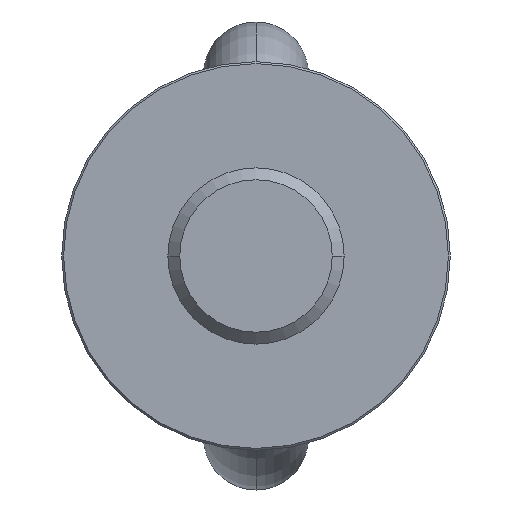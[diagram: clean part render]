
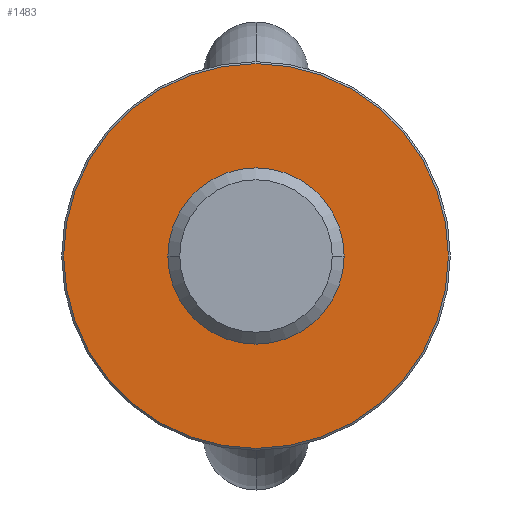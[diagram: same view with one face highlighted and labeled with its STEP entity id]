
A CAD part, front view. The second image highlights one B-rep face of the part: STEP entity #1483.
In plain terms, the highlighted planar face has unit normal (0, -1, 0).
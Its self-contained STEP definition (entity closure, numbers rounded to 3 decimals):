
#5=CARTESIAN_POINT('',(0.,0.,0.));
#6=DIRECTION('',(0.,1.,0.));
#7=DIRECTION('',(1.,0.,0.));
#8=AXIS2_PLACEMENT_3D('',#5,#6,#7);
#14=CARTESIAN_POINT('',(0.,0.,0.));
#15=DIRECTION('',(0.,-1.,0.));
#16=DIRECTION('',(1.,0.,0.));
#17=AXIS2_PLACEMENT_3D('',#14,#15,#16);
#52=CARTESIAN_POINT('',(0.,0.,0.));
#53=DIRECTION('',(0.,-1.,0.));
#54=DIRECTION('',(1.,0.,0.));
#55=AXIS2_PLACEMENT_3D('',#52,#53,#54);
#1129=CARTESIAN_POINT('',(0.,0.,0.));
#1130=DIRECTION('',(0.,1.,0.));
#1131=DIRECTION('',(1.,0.,0.));
#1132=AXIS2_PLACEMENT_3D('',#1129,#1130,#1131);
#1182=CARTESIAN_POINT('',(48.5,0.,0.));
#1183=CARTESIAN_POINT('',(-48.5,0.,0.));
#1184=VERTEX_POINT('',#1182);
#1185=VERTEX_POINT('',#1183);
#1238=CARTESIAN_POINT('',(22.225,0.,0.));
#1240=VERTEX_POINT('',#1238);
#1244=CARTESIAN_POINT('',(-22.225,0.,0.));
#1246=VERTEX_POINT('',#1244);
#1466=CARTESIAN_POINT('',(0.,0.,0.));
#1467=DIRECTION('',(0.,-1.,0.));
#1468=DIRECTION('',(-1.,0.,0.));
#1469=AXIS2_PLACEMENT_3D('',#1466,#1467,#1468);
#1470=PLANE('',#1469);
#1472=ORIENTED_EDGE('',*,*,#1471,.F.);
#1474=ORIENTED_EDGE('',*,*,#1473,.T.);
#1475=EDGE_LOOP('',(#1472,#1474));
#1476=FACE_OUTER_BOUND('',#1475,.F.);
#1478=ORIENTED_EDGE('',*,*,#1477,.F.);
#1480=ORIENTED_EDGE('',*,*,#1479,.T.);
#1481=EDGE_LOOP('',(#1478,#1480));
#1482=FACE_BOUND('',#1481,.F.);
#1483=ADVANCED_FACE('',(#1476,#1482),#1470,.T.);
#9=CIRCLE('',#8,22.225);
#18=CIRCLE('',#17,22.225);
#56=CIRCLE('',#55,48.5);
#1133=CIRCLE('',#1132,48.5);
#1471=EDGE_CURVE('',#1184,#1185,#56,.T.);
#1473=EDGE_CURVE('',#1184,#1185,#1133,.T.);
#1477=EDGE_CURVE('',#1240,#1246,#9,.T.);
#1479=EDGE_CURVE('',#1240,#1246,#18,.T.);
